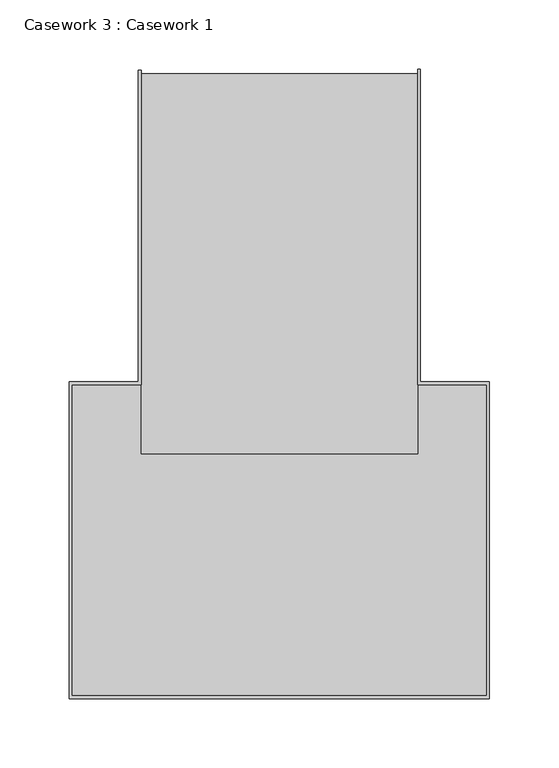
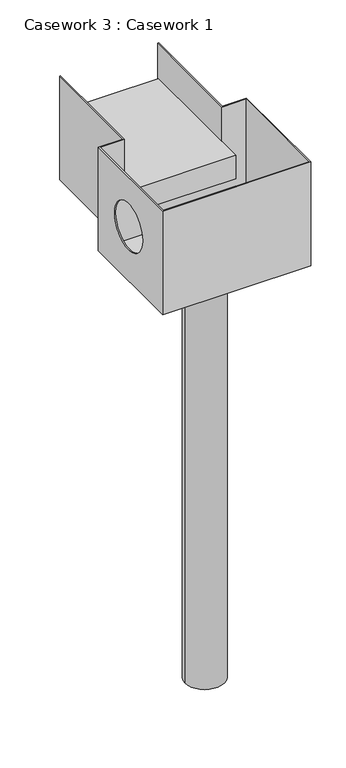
"""IFC4 building model written with IfcOpenShell, lengths in millimetres: furniture geometry, Casework 3 : Casework 1."""

from ifc_helpers import new_model, si_unit, point, frame, frame_2d, origin, place, context, project, spatial, polyline, circle_curve, trimmed, segment, composite_curve, outline, extrude, source, transform, mapped, element, save
from ifc_brep_helpers import plane_surface, revolved_surface, advanced_brep


def casework_3_casework_1_fadb44d8(model_context):
    return source(origin(), model_context, "Body", "SolidModel", [
        extrude(outline(polyline([(18153.9178705, -23445.764445), (18153.9178705, -23720.6737546), (17953.9178705, -23720.6737546), (17953.9178705, -23445.764445), (18153.9178705, -23445.764445)])), frame((0.0, 0.0, 2415.0), z_axis=(0.0, 0.0, 1.0), x_axis=(1.0, 0.0, 0.0)), (0.0, 0.0, 1.0), 50.0),
        advanced_brep(
        [(18203.9178705, -23895.6737546, 2540.0), (17903.9178705, -23895.6737546, 2540.0), (17903.9178705, -23670.6737546, 2540.0), (17953.9178705, -23670.6737546, 2540.0), (17953.9178705, -23589.4109066, 2540.0), (17953.9178705, -23443.406104, 2540.0), (17951.9178705, -23443.406104, 2540.0), (17951.9178705, -23668.6737546, 2540.0), (17901.9178705, -23668.6737546, 2540.0), (17901.9178705, -23897.6737546, 2540.0), (18205.9178705, -23897.6737546, 2540.0), (18205.9178705, -23668.6737546, 2540.0), (18155.9178705, -23668.6737546, 2540.0), (18155.9178705, -23442.4627676, 2540.0), (18153.9178705, -23442.4627676, 2540.0), (18153.9178705, -23589.4109066, 2540.0), (18153.9178705, -23670.6737546, 2540.0), (18203.9178705, -23670.6737546, 2540.0), (18203.9178705, -23895.6737546, 2315.0), (18203.9178705, -23670.6737546, 2315.0), (18153.9178705, -23670.6737546, 2315.0), (18153.9178705, -23442.4627676, 2315.0), (18155.9178705, -23442.4627676, 2315.0), (18155.9178705, -23668.6737546, 2315.0), (18205.9178705, -23668.6737546, 2315.0), (18205.9178705, -23897.6737546, 2315.0), (17901.9178705, -23897.6737546, 2315.0), (17901.9178705, -23668.6737546, 2315.0), (17951.9178705, -23668.6737546, 2315.0), (17951.9178705, -23443.406104, 2315.0), (17953.9178705, -23443.406104, 2315.0), (17953.9178705, -23670.6737546, 2315.0), (17903.9178705, -23670.6737546, 2315.0), (17903.9178705, -23895.6737546, 2315.0), (17903.9178705, -23825.7517945, 2432.0059237), (17903.9178705, -23725.7517945, 2432.0059237), (17953.9178705, -23670.6737546, 2320.0), (18153.9178705, -23670.6737546, 2320.0), (18153.9178705, -23670.6737546, 2415.0), (17953.9178705, -23670.6737546, 2415.0), (17953.9178705, -23653.649334, 2415.0), (17953.9178705, -23653.649334, 2320.0), (17901.9178705, -23725.7517945, 2432.0059237), (17901.9178705, -23825.7517945, 2432.0059237), (18153.9178705, -23653.649334, 2320.0), (18153.9178705, -23653.649334, 2415.0)],
        [
            (0, 1),
            (1, 2),
            (2, 3),
            (3, 4),
            (4, 5),
            (5, 6),
            (6, 7),
            (7, 8),
            (8, 9),
            (9, 10),
            (10, 11),
            (11, 12),
            (12, 13),
            (13, 14),
            (14, 15),
            (15, 16),
            (16, 17),
            (17, 0),
            (18, 19),
            (19, 20),
            (20, 21),
            (21, 22),
            (22, 23),
            (23, 24),
            (24, 25),
            (25, 26),
            (26, 27),
            (27, 28),
            (28, 29),
            (29, 30),
            (30, 31),
            (31, 32),
            (32, 33),
            (33, 18),
            (0, 18),
            (33, 1),
            (32, 2),
            (34, 35, circle_curve(frame((17903.9178705, -23775.7517945, 2432.0059237), z_axis=(-1.0, 0.0, 0.0), x_axis=(0.0, -1.0, 0.0)), 50.0)),
            (35, 34, circle_curve(frame((17903.9178705, -23775.7517945, 2432.0059237), z_axis=(-1.0, 0.0, 0.0), x_axis=(0.0, -1.0, 0.0)), 50.0)),
            (31, 36),
            (36, 37),
            (37, 20),
            (19, 17),
            (16, 38),
            (38, 39),
            (39, 3),
            (30, 5),
            (39, 40),
            (40, 41),
            (41, 36),
            (7, 28),
            (27, 8),
            (26, 9),
            (42, 43, circle_curve(frame((17901.9178705, -23775.7517945, 2432.0059237), z_axis=(1.0, 0.0, 0.0), x_axis=(0.0, -1.0, 0.0)), 50.0)),
            (43, 42, circle_curve(frame((17901.9178705, -23775.7517945, 2432.0059237), z_axis=(1.0, 0.0, 0.0), x_axis=(0.0, -1.0, 0.0)), 50.0)),
            (25, 10),
            (24, 11),
            (23, 12),
            (29, 6),
            (22, 13),
            (21, 14),
            (37, 44),
            (44, 45),
            (45, 38),
            (42, 35),
            (34, 43),
            (44, 41),
            (40, 45),
        ],
        [
            plane_surface(frame((18203.9178705, -23895.6737546, 2540.0), z_axis=(0.0, 0.0, 1.0), x_axis=(-1.0, 0.0, 0.0))),
            plane_surface(frame((18203.9178705, -23895.6737546, 2315.0), z_axis=(0.0, 0.0, -1.0), x_axis=(1.0, 0.0, 0.0))),
            plane_surface(frame((18203.9178705, -23895.6737546, 2540.0), z_axis=(0.0, 1.0, 0.0), x_axis=(0.0, 0.0, -1.0))),
            plane_surface(frame((17903.9178705, -23895.6737546, 2540.0), z_axis=(1.0, 0.0, 0.0), x_axis=(0.0, 0.0, -1.0))),
            plane_surface(frame((17903.9178705, -23670.6737546, 2540.0), z_axis=(0.0, -1.0, 0.0), x_axis=(0.0, 0.0, -1.0))),
            plane_surface(frame((17953.9178705, -23670.6737546, 2540.0), z_axis=(1.0, 0.0, 0.0), x_axis=(0.0, 0.0, -1.0))),
            plane_surface(frame((17951.9178705, -23668.6737546, 2540.0), z_axis=(0.0, 1.0, 0.0), x_axis=(0.0, 0.0, -1.0))),
            plane_surface(frame((17901.9178705, -23668.6737546, 2540.0), z_axis=(-1.0, 0.0, 0.0), x_axis=(0.0, 0.0, -1.0))),
            plane_surface(frame((17901.9178705, -23897.6737546, 2540.0), z_axis=(0.0, -1.0, 0.0), x_axis=(0.0, 0.0, -1.0))),
            plane_surface(frame((18205.9178705, -23897.6737546, 2540.0), z_axis=(1.0, 0.0, 0.0), x_axis=(0.0, 0.0, -1.0))),
            plane_surface(frame((18205.9178705, -23668.6737546, 2540.0), z_axis=(0.0, 1.0, 0.0), x_axis=(0.0, 0.0, -1.0))),
            plane_surface(frame((18203.9178705, -23670.6737546, 2540.0), z_axis=(-1.0, 0.0, 0.0), x_axis=(0.0, 0.0, -1.0))),
            plane_surface(frame((17953.9178705, -23443.406104, 2540.0), z_axis=(0.0, 1.0, 0.0), x_axis=(0.0, 0.0, -1.0))),
            plane_surface(frame((17951.9178705, -23443.406104, 2540.0), z_axis=(-1.0, 0.0, 0.0), x_axis=(0.0, 0.0, -1.0))),
            plane_surface(frame((18155.9178705, -23668.6737546, 2540.0), z_axis=(1.0, 0.0, 0.0), x_axis=(0.0, 0.0, -1.0))),
            plane_surface(frame((18155.9178705, -23442.4627676, 2540.0), z_axis=(0.0, 1.0, 0.0), x_axis=(0.0, 0.0, -1.0))),
            plane_surface(frame((18153.9178705, -23442.4627676, 2540.0), z_axis=(-1.0, 0.0, 0.0), x_axis=(0.0, 0.0, -1.0))),
            revolved_surface(polyline([(17903.9178705, -23825.7517945, 2432.0059237), (17901.9178705, -23825.7517945, 2432.0059237)]), (17886.8200815, -23775.7517945, 2432.0059237), (1.0, 0.0, 0.0)),
            plane_surface(frame((18153.9178705, -23653.649334, 2415.0), z_axis=(0.0, 1.0, 0.0), x_axis=(0.0, 0.0, -1.0))),
            plane_surface(frame((18153.9178705, -23670.6737546, 2415.0), z_axis=(0.0, 0.0, 1.0), x_axis=(0.0, 1.0, 0.0))),
            plane_surface(frame((17953.9178705, -23670.6737546, 2320.0), z_axis=(0.0, 0.0, -1.0), x_axis=(0.0, 1.0, 0.0))),
        ],
        [
            (0, [[1, 2, 3, 4, 5, 6, 7, 8, 9, 10, 11, 12, 13, 14, 15, 16, 17, 18]]),
            (1, [[19, 20, 21, 22, 23, 24, 25, 26, 27, 28, 29, 30, 31, 32, 33, 34]]),
            (2, [[-1, 35, -34, 36]]),
            (3, [[-2, -36, -33, 37], [38, 39]]),
            (4, [[-3, -37, -32, 40, 41, 42, -20, 43, -17, 44, 45, 46]]),
            (5, [[-31, 47, -5, -4, -46, 48, 49, 50, -40]]),
            (6, [[-8, 51, -28, 52]]),
            (7, [[-9, -52, -27, 53], [54, 55]]),
            (8, [[-10, -53, -26, 56]]),
            (9, [[-11, -56, -25, 57]]),
            (10, [[-12, -57, -24, 58]]),
            (11, [[-18, -43, -19, -35]]),
            (12, [[-6, -47, -30, 59]]),
            (13, [[-7, -59, -29, -51]]),
            (14, [[-13, -58, -23, 60]]),
            (15, [[-14, -60, -22, 61]]),
            (16, [[-21, -42, 62, 63, 64, -44, -16, -15, -61]]),
            (17, [[65, -38, 66, -54]]),
            (17, [[-65, -55, -66, -39]]),
            (18, [[67, -49, 68, -63]]),
            (19, [[-45, -64, -68, -48]]),
            (20, [[-41, -50, -67, -62]]),
        ],
    ),
        extrude(outline(composite_curve([segment(trimmed(circle_curve(frame_2d((18053.9178705, -23783.1737546)), 40.0), [point((18013.9178705, -23783.1737546))], [point((18093.9178705, -23783.1737546))], False, "CARTESIAN"), True, "CONTINUOUS"), segment(trimmed(circle_curve(frame_2d((18053.9178705, -23783.1737546)), 40.0), [point((18093.9178705, -23783.1737546))], [point((18013.9178705, -23783.1737546))], False, "CARTESIAN"), True, "CONTINUOUS")], self_intersect=False)), frame((0.0, 0.0, 1406.0237795), z_axis=(0.0, 0.0, 1.0), x_axis=(1.0, 0.0, 0.0)), (0.0, 0.0, 1.0), 908.9762205),
        extrude(outline(polyline([(18203.9178705, -23670.6737546), (18203.9178705, -23895.6737546), (17903.9178705, -23895.6737546), (17903.9178705, -23670.6737546), (17953.9178705, -23670.6737546), (17953.9178705, -23635.6737546), (18153.9178705, -23635.6737546), (18153.9178705, -23670.6737546), (18203.9178705, -23670.6737546)])), frame((0.0, 0.0, 2315.0), z_axis=(0.0, 0.0, 1.0), x_axis=(1.0, 0.0, 0.0)), (0.0, 0.0, 1.0), 5.0),
    ])


if __name__ == "__main__":
    model = new_model("IFC4")
    model_context = context("Model", 3, world=origin())
    ifc_project = project(units=[si_unit("LENGTHUNIT", "METRE", prefix="MILLI")], contexts=[model_context])
    site = spatial("IfcSite", under=ifc_project)
    building = spatial("IfcBuilding", under=site)
    placement = place(None, origin())
    casework_3_casework_1_shape = casework_3_casework_1_fadb44d8(model_context)
    element("IfcFurniture", 1, ObjectType="Casework 3 : Casework 1", at=placement, inside=building, context=model_context, shape_type="MappedRepresentation", body=[
        mapped(casework_3_casework_1_shape, transform((0.0, 0.0, 0.0), x_axis=(1.0, 0.0, 0.0), y_axis=(0.0, 1.0, 0.0), z_axis=(0.0, 0.0, 1.0))),
    ])
    save(model, "model.ifc")
